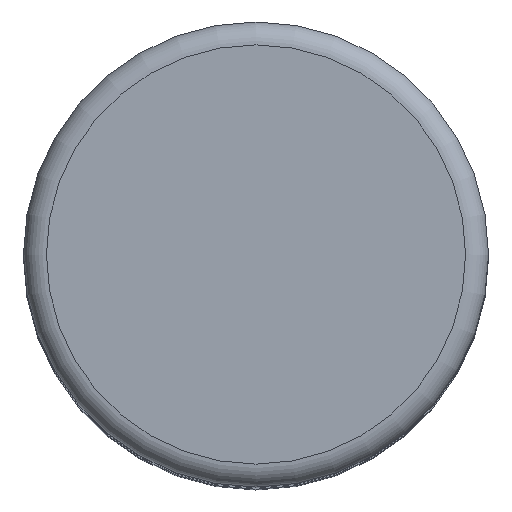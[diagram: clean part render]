
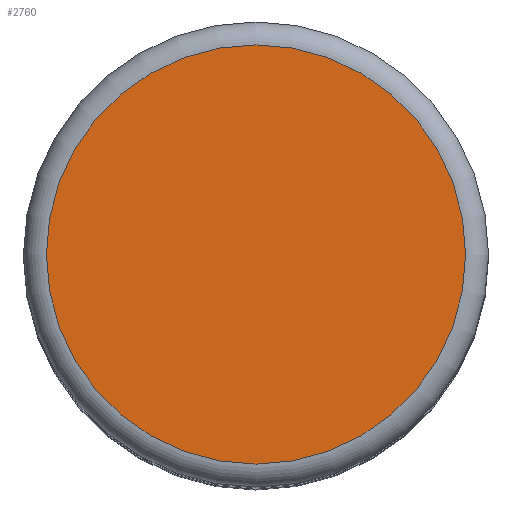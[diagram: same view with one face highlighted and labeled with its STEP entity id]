
A CAD part, top view. The second image highlights one B-rep face of the part: STEP entity #2760.
In plain terms, the highlighted planar face has unit normal (0, 0, 1).
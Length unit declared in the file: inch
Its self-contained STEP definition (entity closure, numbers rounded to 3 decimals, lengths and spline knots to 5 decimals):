
#149=PLANE('',#2947);
#297=FACE_OUTER_BOUND('',#450,.T.);
#450=EDGE_LOOP('',(#2579));
#678=CIRCLE('',#2944,0.18276);
#1332=VERTEX_POINT('',#6265);
#1747=EDGE_CURVE('',#1332,#1332,#678,.T.);
#2579=ORIENTED_EDGE('',*,*,#1747,.F.);
#2760=ADVANCED_FACE('',(#297),#149,.T.);
#2944=AXIS2_PLACEMENT_3D('',#6267,#3463,#3464);
#2947=AXIS2_PLACEMENT_3D('',#6272,#3470,#3471);
#3463=DIRECTION('center_axis',(0.,0.,-1.));
#3464=DIRECTION('ref_axis',(-1.,0.,0.));
#3470=DIRECTION('center_axis',(0.,0.,1.));
#3471=DIRECTION('ref_axis',(1.,0.,0.));
#6265=CARTESIAN_POINT('',(0.18276,0.,0.75));
#6267=CARTESIAN_POINT('Origin',(0.,0.,0.75));
#6272=CARTESIAN_POINT('Origin',(0.,0.,0.75));
